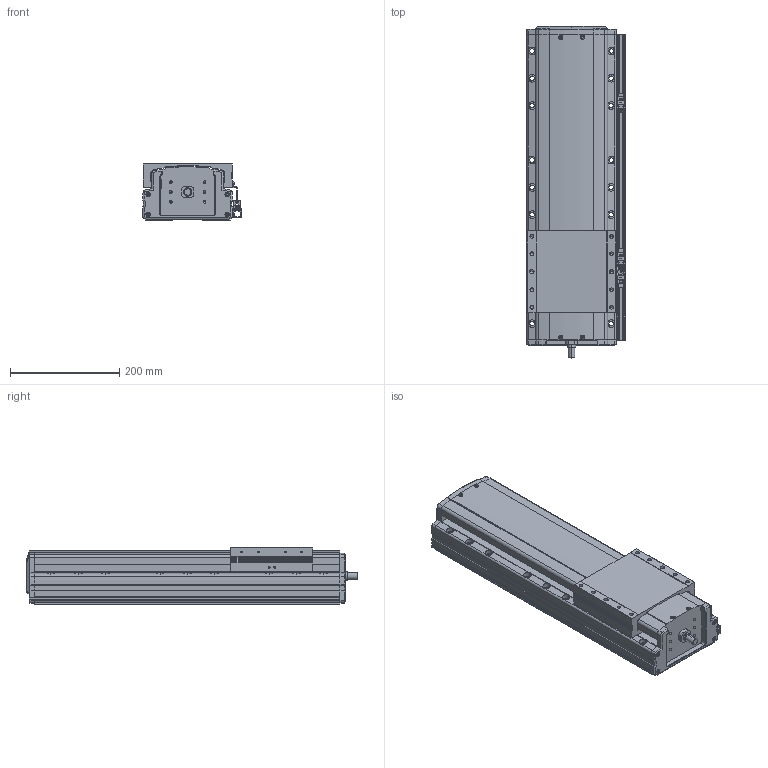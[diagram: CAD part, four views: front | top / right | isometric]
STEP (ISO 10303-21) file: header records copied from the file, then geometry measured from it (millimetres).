
FILE_DESCRIPTION(('STEP AP214'),'1');
FILE_NAME('Z:/Web/3D/PSA165/STP/PSA165-300 (3D)/PSA165ㅁㅁ-300+3SR.stp','2014-06-23T09:17:57',(' '),(' '),'Spatial InterOp 3D',' ',' ');
FILE_SCHEMA(('automotive_design'));
Length unit declared in the file: millimetre
Products named in the file (36): 스크루 : Round - M4.0 x 12.0; RRCV-PA160; BASE; 스크루 : Round - M4.0 x 10.0; RN15; Screw 20; SLIDE; FRCV; M3.0 x 6.0; SRL-16x17-360L; SGD-SAN150; EE-SX674; SBK-SX674-352; 스크루 : Round - M3.0 x 6.0; BHCS M4.0 x 10.0
Bounding box: 181 x 608.8 x 104 mm (x, y, z)
Volume: 8183156.5 mm3; surface area: 653783.5 mm2
Topology: 36 solids, 36 shells, 2348 faces, 6309 edges, 4065 vertices
Faces by surface type: plane 1391, cylinder 679, cone 185, sphere 52, bspline 25, torus 16
Entity records: 95442 total; most frequent: CARTESIAN_POINT 16540, DIRECTION 12489, ORIENTED_EDGE 12382, EDGE_CURVE 6191, LINE 4273, VECTOR 4273, AXIS2_PLACEMENT_3D 4108, VERTEX_POINT 4065
